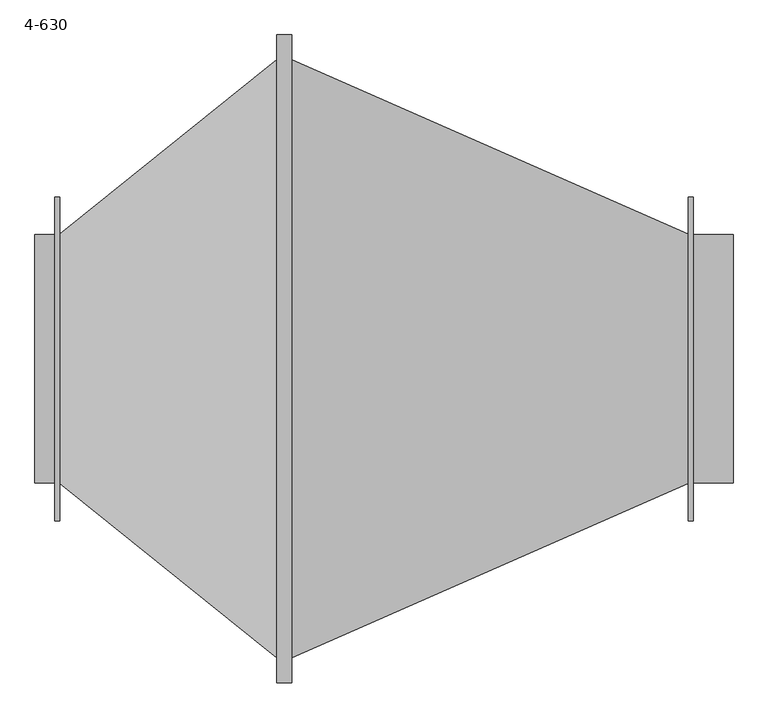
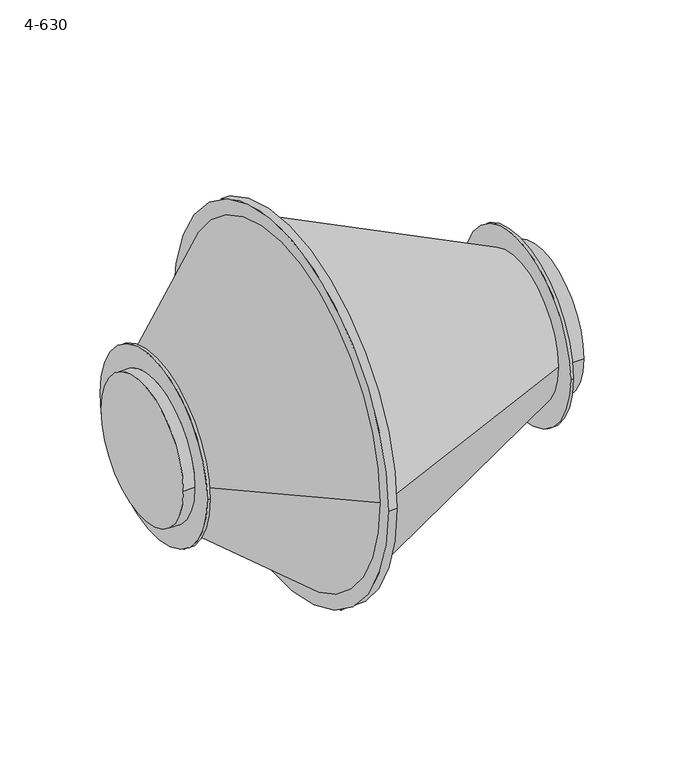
"""IFC4 building model written with IfcOpenShell, lengths in millimetres: unitary equipment geometry, VE-Wentylator-ParaForma-Harmann-VITT_L-Wywiewny : 4-630."""

from ifc_helpers import new_model, si_unit, point, frame, origin, origin_2d, place, context, project, spatial, polyline, circle_curve, trimmed, segment, composite_curve, outline, extrude, source, transform, mapped, element, save
from ifc_brep_helpers import plane_surface, cylinder_surface, revolved_surface, advanced_brep


def unitary_equipment_4_630_5e4d00b9(model_context):
    return source(origin(), model_context, "Body", "SolidModel", [
        advanced_brep(
        [(-30.0, -600.0, 0.0), (-30.0, 600.0, 0.0), (-515.0, -249.0, 0.0), (-515.0, 249.0, 0.0), (-475.0, -249.0, 0.0), (-475.0, 249.0, 0.0), (-465.0, -250.0, 0.0), (-465.0, 250.0, 0.0), (-475.0, -325.0, 0.0), (-475.0, 325.0, 0.0), (-465.0, -325.0, 0.0), (-465.0, 325.0, 0.0)],
        [
            (0, 1, circle_curve(frame((-30.0, 0.0, 0.0), z_axis=(1.0, 0.0, 0.0), x_axis=(0.0, -0.9999999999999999, 0.0)), 600.0)),
            (1, 0, circle_curve(frame((-30.0, 0.0, 0.0), z_axis=(1.0, 0.0, 0.0), x_axis=(0.0, 0.9999999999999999, 0.0)), 600.0)),
            (2, 3, circle_curve(frame((-515.0, 0.0, 0.0), z_axis=(-1.0, 0.0, 0.0), x_axis=(0.0, 0.9999999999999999, 0.0)), 249.0)),
            (3, 2, circle_curve(frame((-515.0, 0.0, 0.0), z_axis=(-1.0, 0.0, 0.0), x_axis=(0.0, 0.9999999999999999, 0.0)), 249.0)),
            (2, 4),
            (4, 5, circle_curve(frame((-475.0, 0.0, 0.0), z_axis=(-1.0, 0.0, 0.0), x_axis=(0.0, 0.9999999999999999, 0.0)), 249.0)),
            (5, 3),
            (5, 4, circle_curve(frame((-475.0, 0.0, 0.0), z_axis=(-1.0, 0.0, 0.0), x_axis=(0.0, 0.9999999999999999, 0.0)), 249.0)),
            (0, 6),
            (6, 7, circle_curve(frame((-465.0, 0.0, 0.0), z_axis=(1.0, 0.0, 0.0), x_axis=(0.0, -0.9999999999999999, 0.0)), 250.0)),
            (7, 1),
            (7, 6, circle_curve(frame((-465.0, 0.0, 0.0), z_axis=(1.0, 0.0, 0.0), x_axis=(0.0, 0.9999999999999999, 0.0)), 250.0)),
            (8, 9, circle_curve(frame((-475.0, 0.0, 0.0), z_axis=(-1.0, 0.0, 0.0), x_axis=(0.0, 0.9999999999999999, 0.0)), 325.0)),
            (9, 8, circle_curve(frame((-475.0, 0.0, 0.0), z_axis=(-1.0, 0.0, 0.0), x_axis=(0.0, 0.9999999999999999, 0.0)), 325.0)),
            (10, 11, circle_curve(frame((-465.0, 0.0, 0.0), z_axis=(1.0, 0.0, 0.0), x_axis=(0.0, 0.9999999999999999, 0.0)), 325.0)),
            (11, 10, circle_curve(frame((-465.0, 0.0, 0.0), z_axis=(1.0, 0.0, 0.0), x_axis=(0.0, 0.9999999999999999, 0.0)), 325.0)),
            (8, 10),
            (11, 9),
        ],
        [
            plane_surface(frame((-30.0, 0.0, 0.0), z_axis=(1.0, 0.0, 0.0), x_axis=(0.0, 0.0, -1.0))),
            plane_surface(frame((-515.0, 0.0, 0.0), z_axis=(-1.0, 0.0, 0.0), x_axis=(0.0, 0.0, 1.0))),
            cylinder_surface(frame((-515.0, 0.0, 0.0), z_axis=(-0.9999999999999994, 0.0, 0.0), x_axis=(0.0, 0.9999999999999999, 0.0)), 249.0),
            revolved_surface(polyline([(-465.0, 249.99999999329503, 0.0), (-30.0, 600.0, 0.0)]), (-775.7142857, 0.0, 0.0), (0.9999999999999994, 0.0, 0.0)),
            revolved_surface(polyline([(-465.0, -249.99999999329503, 0.0), (-30.0, -600.0, 0.0)]), (-775.7142857, 0.0, 0.0), (0.9999999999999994, 0.0, 0.0)),
            plane_surface(frame((-475.0, 0.0, 0.0), z_axis=(-1.0, 0.0, 0.0), x_axis=(0.0, 0.0, 1.0))),
            plane_surface(frame((-465.0, 0.0, 0.0), z_axis=(1.0, 0.0, 0.0), x_axis=(0.0, 0.0, 1.0))),
            cylinder_surface(frame((-475.0, 0.0, 0.0), z_axis=(-0.9999999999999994, 0.0, 0.0), x_axis=(0.0, 0.9999999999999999, 0.0)), 325.0),
        ],
        [
            (0, [[1, 2]]),
            (1, [[3, 4]]),
            (2, [[-3, 5, 6, 7]]),
            (2, [[-4, -7, 8, -5]]),
            (3, [[-1, 9, 10, 11]]),
            (4, [[-2, -11, 12, -9]]),
            (5, [[13, 14], [-6, -8]]),
            (6, [[15, 16], [-10, -12]]),
            (7, [[-13, 17, -16, 18]]),
            (7, [[-14, -18, -15, -17]]),
        ],
    ),
        advanced_brep(
        [(0.0, -600.0, 0.0), (0.0, 600.0, 0.0), (795.0, 250.0, 0.0), (795.0, -250.0, 0.0), (805.0, -325.0, 0.0), (805.0, 325.0, 0.0), (805.0, -249.0, 0.0), (805.0, 249.0, 0.0), (795.0, 325.0, 0.0), (795.0, -325.0, 0.0), (885.0, -249.0, 0.0), (885.0, 249.0, 0.0)],
        [
            (0, 1, circle_curve(frame((0.0, 0.0, 0.0), z_axis=(-1.0, 0.0, 0.0), x_axis=(0.0, 0.9999999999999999, 0.0)), 600.0)),
            (1, 0, circle_curve(frame((0.0, 0.0, 0.0), z_axis=(-1.0, 0.0, 0.0), x_axis=(0.0, -0.9999999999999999, 0.0)), 600.0)),
            (1, 2),
            (2, 3, circle_curve(frame((795.0, 0.0, 0.0), z_axis=(-1.0, 0.0, 0.0), x_axis=(0.0, -0.9999999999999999, 0.0)), 250.0)),
            (3, 0),
            (3, 2, circle_curve(frame((795.0, 0.0, 0.0), z_axis=(-1.0, 0.0, 0.0), x_axis=(0.0, 0.9999999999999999, 0.0)), 250.0)),
            (4, 5, circle_curve(frame((805.0, 0.0, 0.0), z_axis=(1.0, 0.0, 0.0), x_axis=(0.0, 0.9999999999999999, 0.0)), 325.0)),
            (5, 4, circle_curve(frame((805.0, 0.0, 0.0), z_axis=(1.0, 0.0, 0.0), x_axis=(0.0, 0.9999999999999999, 0.0)), 325.0)),
            (6, 7, circle_curve(frame((805.0, 0.0, 0.0), z_axis=(-1.0, 0.0, 0.0), x_axis=(0.0, 0.9999999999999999, 0.0)), 249.0)),
            (7, 6, circle_curve(frame((805.0, 0.0, 0.0), z_axis=(-1.0, 0.0, 0.0), x_axis=(0.0, 0.9999999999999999, 0.0)), 249.0)),
            (8, 9, circle_curve(frame((795.0, 0.0, 0.0), z_axis=(1.0, 0.0, 0.0), x_axis=(0.0, 0.9999999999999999, 0.0)), 325.0)),
            (9, 4),
            (5, 8),
            (9, 8, circle_curve(frame((795.0, 0.0, 0.0), z_axis=(1.0, 0.0, 0.0), x_axis=(0.0, 0.9999999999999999, 0.0)), 325.0)),
            (10, 11, circle_curve(frame((885.0, 0.0, 0.0), z_axis=(1.0, 0.0, 0.0), x_axis=(0.0, 0.9999999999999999, 0.0)), 249.0)),
            (11, 10, circle_curve(frame((885.0, 0.0, 0.0), z_axis=(1.0, 0.0, 0.0), x_axis=(0.0, 0.9999999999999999, 0.0)), 249.0)),
            (11, 7),
            (6, 10),
        ],
        [
            plane_surface(frame((0.0, 0.0, 0.0), z_axis=(-1.0, 0.0, 0.0), x_axis=(0.0, 0.0, -1.0))),
            revolved_surface(polyline([(795.0000000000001, -250.00000001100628, 0.0), (0.0, -600.0, 0.0)]), (1362.8571429, 0.0, 0.0), (-0.9999999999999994, 0.0, 0.0)),
            revolved_surface(polyline([(795.0000000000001, 250.00000001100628, 0.0), (0.0, 600.0, 0.0)]), (1362.8571429, 0.0, 0.0), (-0.9999999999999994, 0.0, 0.0)),
            plane_surface(frame((805.0, 0.0, 0.0), z_axis=(1.0, 0.0, 0.0), x_axis=(0.0, 0.0, 1.0))),
            cylinder_surface(frame((795.0, 0.0, 0.0), z_axis=(-0.9999999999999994, 0.0, 0.0), x_axis=(0.0, 0.9999999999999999, 0.0)), 325.0),
            plane_surface(frame((885.0, 0.0, 0.0), z_axis=(1.0, 0.0, 0.0), x_axis=(0.0, 0.0, 1.0))),
            cylinder_surface(frame((805.0, 0.0, 0.0), z_axis=(-0.9999999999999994, 0.0, 0.0), x_axis=(0.0, 0.9999999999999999, 0.0)), 249.0),
            plane_surface(frame((795.0, 0.0, 0.0), z_axis=(-1.0, 0.0, 0.0), x_axis=(0.0, 0.0, 1.0))),
        ],
        [
            (0, [[1, 2]]),
            (1, [[-2, 3, 4, 5]]),
            (2, [[-1, -5, 6, -3]]),
            (3, [[7, 8], [9, 10]]),
            (4, [[11, 12, -8, 13]]),
            (4, [[14, -13, -7, -12]]),
            (5, [[15, 16]]),
            (6, [[-16, 17, -9, 18]]),
            (6, [[-15, -18, -10, -17]]),
            (7, [[-11, -14], [-4, -6]]),
        ],
    ),
        extrude(outline(composite_curve([segment(trimmed(circle_curve(origin_2d(), 650.0), [point((-650.0, 0.0))], [point((650.0, 0.0))], False, "CARTESIAN"), True, "CONTINUOUS"), segment(trimmed(circle_curve(origin_2d(), 650.0), [point((650.0, 0.0))], [point((-650.0, 0.0))], False, "CARTESIAN"), True, "CONTINUOUS")], self_intersect=False)), frame((-30.0, 0.0, 0.0), z_axis=(1.0, 0.0, 0.0), x_axis=(0.0, 1.0, 0.0)), (0.0, 0.0, 1.0), 30.0),
    ])


if __name__ == "__main__":
    model = new_model("IFC4")
    model_context = context("Model", 3, world=origin())
    ifc_project = project(units=[si_unit("LENGTHUNIT", "METRE", prefix="MILLI")], contexts=[model_context])
    site = spatial("IfcSite", under=ifc_project)
    building = spatial("IfcBuilding", under=site)
    placement = place(None, origin())
    unitary_equipment_4_630_shape = unitary_equipment_4_630_5e4d00b9(model_context)
    element("IfcUnitaryEquipment", 1, ObjectType="VE-Wentylator-ParaForma-Harmann-VITT_L-Wywiewny : 4-630", at=placement, inside=building, context=model_context, shape_type="MappedRepresentation", body=[
        mapped(unitary_equipment_4_630_shape, transform((0.0, 0.0, 0.0), x_axis=(1.0, 0.0, 0.0), y_axis=(0.0, 1.0, 0.0), z_axis=(0.0, 0.0, 1.0))),
    ])
    save(model, "model.ifc")
